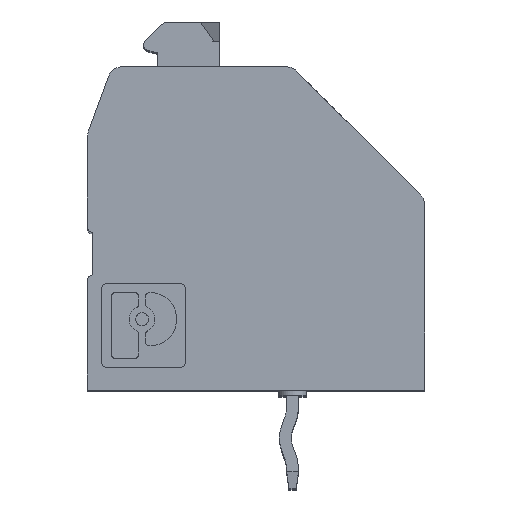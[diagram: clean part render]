
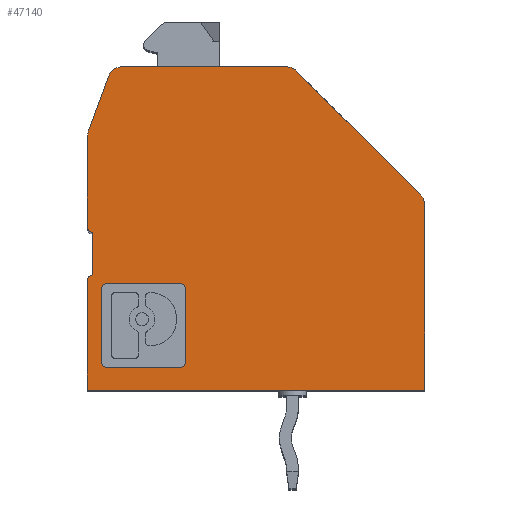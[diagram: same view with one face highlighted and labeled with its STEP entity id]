
A CAD part, top view. The second image highlights one B-rep face of the part: STEP entity #47140.
In plain terms, the highlighted planar face has unit normal (0, 0, 1).
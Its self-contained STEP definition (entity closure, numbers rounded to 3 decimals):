
#33090=CARTESIAN_POINT('',(0.2,3.9,6.43));
#33100=DIRECTION('',(0.,0.,1.));
#33110=DIRECTION('',(1.,0.,0.));
#33120=AXIS2_PLACEMENT_3D('',#33090,#33100,#33110);
#33130=CIRCLE('',#33120,0.2);
#33140=CARTESIAN_POINT('',(0.2,4.1,6.43));
#33150=VERTEX_POINT('',#33140);
#33160=CARTESIAN_POINT('',(0.,3.9,6.43));
#33170=VERTEX_POINT('',#33160);
#33180=EDGE_CURVE('',#33150,#33170,#33130,.T.);
#38700=CARTESIAN_POINT('',(7.446,11.354,6.43));
#38710=VERTEX_POINT('',#38700);
#38740=CARTESIAN_POINT('',(7.093,11.,6.43));
#38750=DIRECTION('',(0.,0.,-1.));
#38760=DIRECTION('',(-1.,0.,0.));
#38770=AXIS2_PLACEMENT_3D('',#38740,#38750,#38760);
#38780=CIRCLE('',#38770,0.5);
#38790=CARTESIAN_POINT('',(7.093,11.5,6.43));
#38800=VERTEX_POINT('',#38790);
#38810=EDGE_CURVE('',#38800,#38710,#38780,.T.);
#39040=CARTESIAN_POINT('',(0.5,9.012,6.43));
#39050=DIRECTION('',(0.,0.,1.));
#39060=DIRECTION('',(1.,0.,0.));
#39070=AXIS2_PLACEMENT_3D('',#39040,#39050,#39060);
#39080=CIRCLE('',#39070,0.5);
#39090=CARTESIAN_POINT('',(0.03,9.183,6.43));
#39100=VERTEX_POINT('',#39090);
#39110=CARTESIAN_POINT('',(0.,9.012,6.43));
#39120=VERTEX_POINT('',#39110);
#39130=EDGE_CURVE('',#39100,#39120,#39080,.T.);
#41140=CARTESIAN_POINT('',(12.,0.,6.43));
#41150=VERTEX_POINT('',#41140);
#41620=CARTESIAN_POINT('',(0.,0.,6.43));
#41630=VERTEX_POINT('',#41620);
#41660=CARTESIAN_POINT('',(0.,0.,6.43));
#41670=DIRECTION('',(-1.,0.,0.));
#41680=VECTOR('',#41670,1.);
#41690=LINE('',#41660,#41680);
#41700=EDGE_CURVE('',#41150,#41630,#41690,.T.);
#44900=CARTESIAN_POINT('',(11.5,6.593,6.43));
#44910=DIRECTION('',(0.,0.,1.));
#44920=DIRECTION('',(1.,0.,0.));
#44930=AXIS2_PLACEMENT_3D('',#44900,#44910,#44920);
#44940=CIRCLE('',#44930,0.5);
#44950=CARTESIAN_POINT('',(12.,6.593,6.43));
#44960=VERTEX_POINT('',#44950);
#44970=CARTESIAN_POINT('',(11.854,6.946,6.43));
#44980=VERTEX_POINT('',#44970);
#44990=EDGE_CURVE('',#44960,#44980,#44940,.T.);
#45680=CARTESIAN_POINT('',(11.439,0.,6.43));
#45690=DIRECTION('',(0.,0.,1.));
#45700=DIRECTION('',(1.,0.,0.));
#45710=AXIS2_PLACEMENT_3D('',#45680,#45690,#45700);
#45720=PLANE('',#45710);
#45730=CARTESIAN_POINT('',(0.,0.,6.43));
#45740=DIRECTION('',(0.,1.,0.));
#45750=VECTOR('',#45740,1.);
#45760=LINE('',#45730,#45750);
#45770=EDGE_CURVE('',#41630,#33170,#45760,.T.);
#45780=ORIENTED_EDGE('',*,*,#45770,.F.);
#45790=ORIENTED_EDGE('',*,*,#33180,.T.);
#45800=CARTESIAN_POINT('',(0.2,0.,6.43));
#45810=DIRECTION('',(0.,1.,0.));
#45820=VECTOR('',#45810,1.);
#45830=LINE('',#45800,#45820);
#45840=CARTESIAN_POINT('',(0.2,5.6,6.43));
#45850=VERTEX_POINT('',#45840);
#45860=EDGE_CURVE('',#33150,#45850,#45830,.T.);
#45870=ORIENTED_EDGE('',*,*,#45860,.F.);
#45880=CARTESIAN_POINT('',(0.2,5.8,6.43));
#45890=DIRECTION('',(0.,0.,-1.));
#45900=DIRECTION('',(-1.,0.,0.));
#45910=AXIS2_PLACEMENT_3D('',#45880,#45890,#45900);
#45920=CIRCLE('',#45910,0.2);
#45930=CARTESIAN_POINT('',(0.,5.8,6.43));
#45940=VERTEX_POINT('',#45930);
#45950=EDGE_CURVE('',#45850,#45940,#45920,.T.);
#45960=ORIENTED_EDGE('',*,*,#45950,.F.);
#45970=CARTESIAN_POINT('',(0.,0.,6.43));
#45980=DIRECTION('',(0.,1.,0.));
#45990=VECTOR('',#45980,1.);
#46000=LINE('',#45970,#45990);
#46010=EDGE_CURVE('',#45940,#39120,#46000,.T.);
#46020=ORIENTED_EDGE('',*,*,#46010,.F.);
#46030=ORIENTED_EDGE('',*,*,#39130,.T.);
#46040=CARTESIAN_POINT('',(-3.312,0.,6.43));
#46050=DIRECTION('',(0.342,0.94,0.));
#46060=VECTOR('',#46050,1.);
#46070=LINE('',#46040,#46060);
#46080=CARTESIAN_POINT('',(0.754,11.171,6.43));
#46090=VERTEX_POINT('',#46080);
#46100=EDGE_CURVE('',#39100,#46090,#46070,.T.);
#46110=ORIENTED_EDGE('',*,*,#46100,.F.);
#46120=CARTESIAN_POINT('',(1.224,11.,6.43));
#46130=DIRECTION('',(0.,0.,1.));
#46140=DIRECTION('',(1.,0.,0.));
#46150=AXIS2_PLACEMENT_3D('',#46120,#46130,#46140);
#46160=CIRCLE('',#46150,0.5);
#46170=CARTESIAN_POINT('',(1.224,11.5,6.43));
#46180=VERTEX_POINT('',#46170);
#46190=EDGE_CURVE('',#46180,#46090,#46160,.T.);
#46200=ORIENTED_EDGE('',*,*,#46190,.T.);
#46210=CARTESIAN_POINT('',(0.,11.5,6.43));
#46220=DIRECTION('',(1.,0.,0.));
#46230=VECTOR('',#46220,1.);
#46240=LINE('',#46210,#46230);
#46250=EDGE_CURVE('',#46180,#38800,#46240,.T.);
#46260=ORIENTED_EDGE('',*,*,#46250,.F.);
#46270=ORIENTED_EDGE('',*,*,#38810,.F.);
#46280=CARTESIAN_POINT('',(0.,18.8,6.43));
#46290=DIRECTION('',(0.707,-0.707,0.));
#46300=VECTOR('',#46290,1.);
#46310=LINE('',#46280,#46300);
#46320=EDGE_CURVE('',#38710,#44980,#46310,.T.);
#46330=ORIENTED_EDGE('',*,*,#46320,.F.);
#46340=ORIENTED_EDGE('',*,*,#44990,.T.);
#46350=CARTESIAN_POINT('',(12.,0.,6.43));
#46360=DIRECTION('',(0.,-1.,0.));
#46370=VECTOR('',#46360,1.);
#46380=LINE('',#46350,#46370);
#46390=EDGE_CURVE('',#44960,#41150,#46380,.T.);
#46400=ORIENTED_EDGE('',*,*,#46390,.F.);
#46410=ORIENTED_EDGE('',*,*,#41700,.F.);
#46420=EDGE_LOOP('',(#46410,#46400,#46340,#46330,#46270,#46260,#46200,
#46110,#46030,#46020,#45960,#45870,#45790,#45780));
#46430=FACE_OUTER_BOUND('',#46420,.T.);
#46440=CARTESIAN_POINT('',(0.,0.8,6.43));
#46450=DIRECTION('',(1.,0.,0.));
#46460=VECTOR('',#46450,1.);
#46470=LINE('',#46440,#46460);
#46480=CARTESIAN_POINT('',(0.711,0.8,6.43));
#46490=VERTEX_POINT('',#46480);
#46500=CARTESIAN_POINT('',(3.289,0.8,6.43));
#46510=VERTEX_POINT('',#46500);
#46520=EDGE_CURVE('',#46490,#46510,#46470,.T.);
#46530=ORIENTED_EDGE('',*,*,#46520,.F.);
#46540=CARTESIAN_POINT('',(3.289,1.011,6.43));
#46550=DIRECTION('',(0.,0.,1.));
#46560=DIRECTION('',(1.,0.,0.));
#46570=AXIS2_PLACEMENT_3D('',#46540,#46550,#46560);
#46580=CIRCLE('',#46570,0.211);
#46590=CARTESIAN_POINT('',(3.5,1.011,6.43));
#46600=VERTEX_POINT('',#46590);
#46610=EDGE_CURVE('',#46510,#46600,#46580,.T.);
#46620=ORIENTED_EDGE('',*,*,#46610,.F.);
#46630=CARTESIAN_POINT('',(3.5,0.,6.43));
#46640=DIRECTION('',(0.,1.,0.));
#46650=VECTOR('',#46640,1.);
#46660=LINE('',#46630,#46650);
#46670=CARTESIAN_POINT('',(3.5,3.589,6.43));
#46680=VERTEX_POINT('',#46670);
#46690=EDGE_CURVE('',#46600,#46680,#46660,.T.);
#46700=ORIENTED_EDGE('',*,*,#46690,.F.);
#46710=CARTESIAN_POINT('',(3.289,3.589,6.43));
#46720=DIRECTION('',(0.,0.,1.));
#46730=DIRECTION('',(1.,0.,0.));
#46740=AXIS2_PLACEMENT_3D('',#46710,#46720,#46730);
#46750=CIRCLE('',#46740,0.211);
#46760=CARTESIAN_POINT('',(3.289,3.8,6.43));
#46770=VERTEX_POINT('',#46760);
#46780=EDGE_CURVE('',#46680,#46770,#46750,.T.);
#46790=ORIENTED_EDGE('',*,*,#46780,.F.);
#46800=CARTESIAN_POINT('',(0.,3.8,6.43));
#46810=DIRECTION('',(-1.,0.,0.));
#46820=VECTOR('',#46810,1.);
#46830=LINE('',#46800,#46820);
#46840=CARTESIAN_POINT('',(0.711,3.8,6.43));
#46850=VERTEX_POINT('',#46840);
#46860=EDGE_CURVE('',#46770,#46850,#46830,.T.);
#46870=ORIENTED_EDGE('',*,*,#46860,.F.);
#46880=CARTESIAN_POINT('',(0.711,3.589,6.43));
#46890=DIRECTION('',(0.,0.,1.));
#46900=DIRECTION('',(1.,0.,0.));
#46910=AXIS2_PLACEMENT_3D('',#46880,#46890,#46900);
#46920=CIRCLE('',#46910,0.211);
#46930=CARTESIAN_POINT('',(0.5,3.589,6.43));
#46940=VERTEX_POINT('',#46930);
#46950=EDGE_CURVE('',#46850,#46940,#46920,.T.);
#46960=ORIENTED_EDGE('',*,*,#46950,.F.);
#46970=CARTESIAN_POINT('',(0.5,0.,6.43));
#46980=DIRECTION('',(0.,-1.,0.));
#46990=VECTOR('',#46980,1.);
#47000=LINE('',#46970,#46990);
#47010=CARTESIAN_POINT('',(0.5,1.011,6.43));
#47020=VERTEX_POINT('',#47010);
#47030=EDGE_CURVE('',#46940,#47020,#47000,.T.);
#47040=ORIENTED_EDGE('',*,*,#47030,.F.);
#47050=CARTESIAN_POINT('',(0.711,1.011,6.43));
#47060=DIRECTION('',(0.,0.,1.));
#47070=DIRECTION('',(1.,0.,0.));
#47080=AXIS2_PLACEMENT_3D('',#47050,#47060,#47070);
#47090=CIRCLE('',#47080,0.211);
#47100=EDGE_CURVE('',#47020,#46490,#47090,.T.);
#47110=ORIENTED_EDGE('',*,*,#47100,.F.);
#47120=EDGE_LOOP('',(#47110,#47040,#46960,#46870,#46790,#46700,#46620,
#46530));
#47130=FACE_BOUND('',#47120,.T.);
#47140=ADVANCED_FACE('',(#46430,#47130),#45720,.T.);
